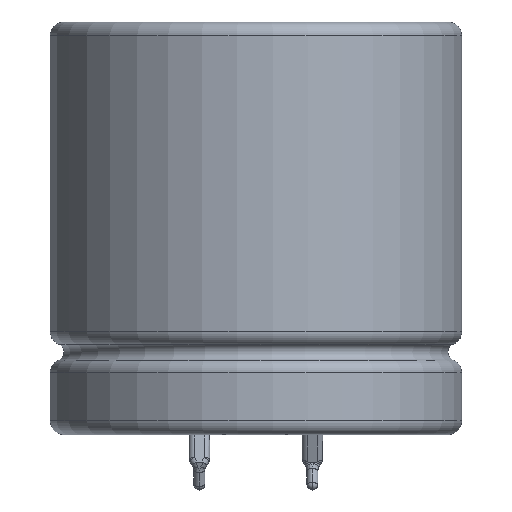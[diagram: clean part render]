
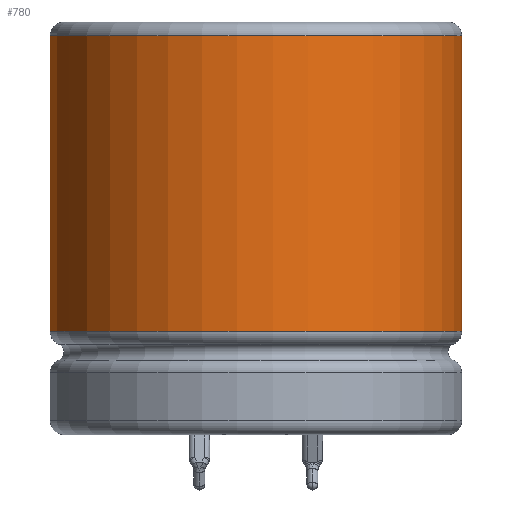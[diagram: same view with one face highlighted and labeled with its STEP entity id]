
A CAD part, left-side view. The second image highlights one B-rep face of the part: STEP entity #780.
In plain terms, the highlighted cylindrical face has radius 15 mm (diameter 30 mm), a partial arc.
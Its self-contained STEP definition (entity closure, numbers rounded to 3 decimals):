
#780=ADVANCED_FACE('',(#1064),#988,.T.);
#988=CYLINDRICAL_SURFACE('',#3980,15.);
#1064=FACE_OUTER_BOUND('',#1259,.T.);
#1259=EDGE_LOOP('',(#1989,#1990,#1991,#1992));
#1481=LINE('',#5546,#1735);
#1482=LINE('',#5550,#1736);
#1735=VECTOR('',#4418,1.);
#1736=VECTOR('',#4421,1.);
#1989=ORIENTED_EDGE('',*,*,#3287,.F.);
#1990=ORIENTED_EDGE('',*,*,#3288,.F.);
#1991=ORIENTED_EDGE('',*,*,#3289,.T.);
#1992=ORIENTED_EDGE('',*,*,#3290,.T.);
#2977=VERTEX_POINT('',#5544);
#2978=VERTEX_POINT('',#5545);
#2979=VERTEX_POINT('',#5547);
#2980=VERTEX_POINT('',#5549);
#3287=EDGE_CURVE('',#2977,#2978,#3781,.T.);
#3288=EDGE_CURVE('',#2979,#2977,#1481,.T.);
#3289=EDGE_CURVE('',#2979,#2980,#3782,.T.);
#3290=EDGE_CURVE('',#2980,#2978,#1482,.T.);
#3781=CIRCLE('',#3978,15.);
#3782=CIRCLE('',#3979,15.);
#3978=AXIS2_PLACEMENT_3D('',#5543,#4416,#4417);
#3979=AXIS2_PLACEMENT_3D('',#5548,#4419,#4420);
#3980=AXIS2_PLACEMENT_3D('',#5551,#4422,#4423);
#4416=DIRECTION('',(0.,0.,-1.));
#4417=DIRECTION('',(-1.,0.,0.));
#4418=DIRECTION('',(0.,0.,-1.));
#4419=DIRECTION('',(0.,0.,-1.));
#4420=DIRECTION('',(-1.,0.,0.));
#4421=DIRECTION('',(0.,0.,-1.));
#4422=DIRECTION('',(0.,0.,-1.));
#4423=DIRECTION('',(-1.,0.,0.));
#5543=CARTESIAN_POINT('',(0.,0.,7.5));
#5544=CARTESIAN_POINT('',(6.101,-13.703,7.5));
#5545=CARTESIAN_POINT('',(13.703,-6.101,7.5));
#5546=CARTESIAN_POINT('',(6.101,-13.703,29.));
#5547=CARTESIAN_POINT('',(6.101,-13.703,29.));
#5548=CARTESIAN_POINT('',(0.,0.,29.));
#5549=CARTESIAN_POINT('',(13.703,-6.101,29.));
#5550=CARTESIAN_POINT('',(13.703,-6.101,29.));
#5551=CARTESIAN_POINT('',(0.,0.,0.));
